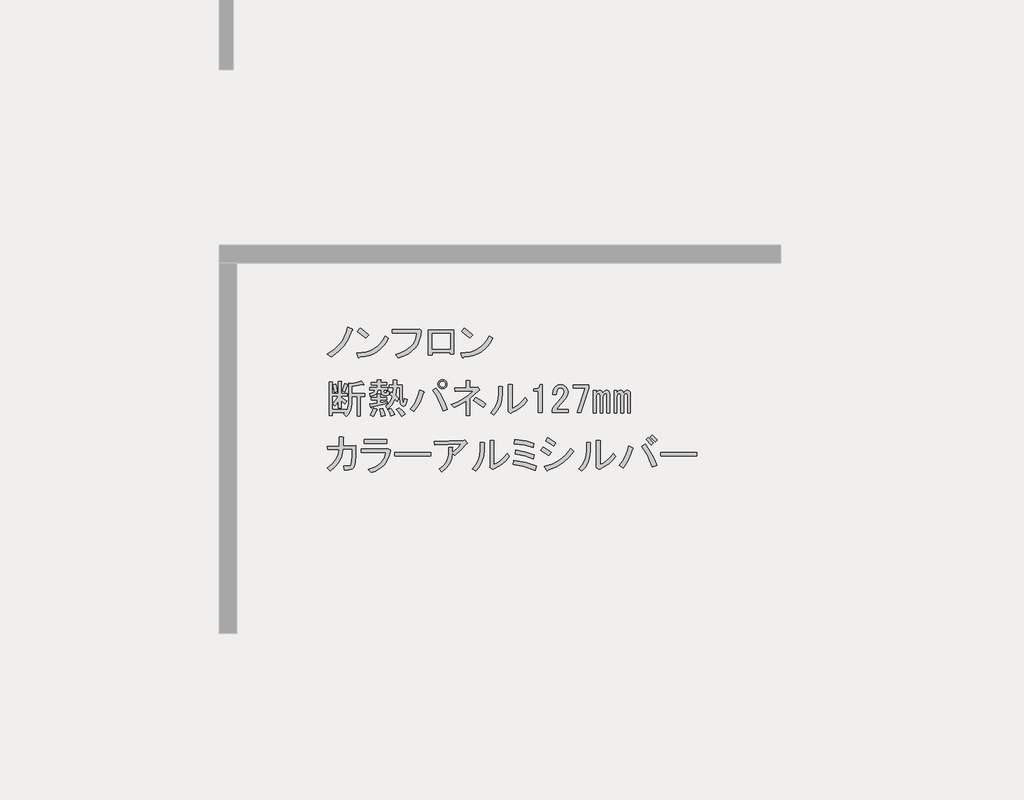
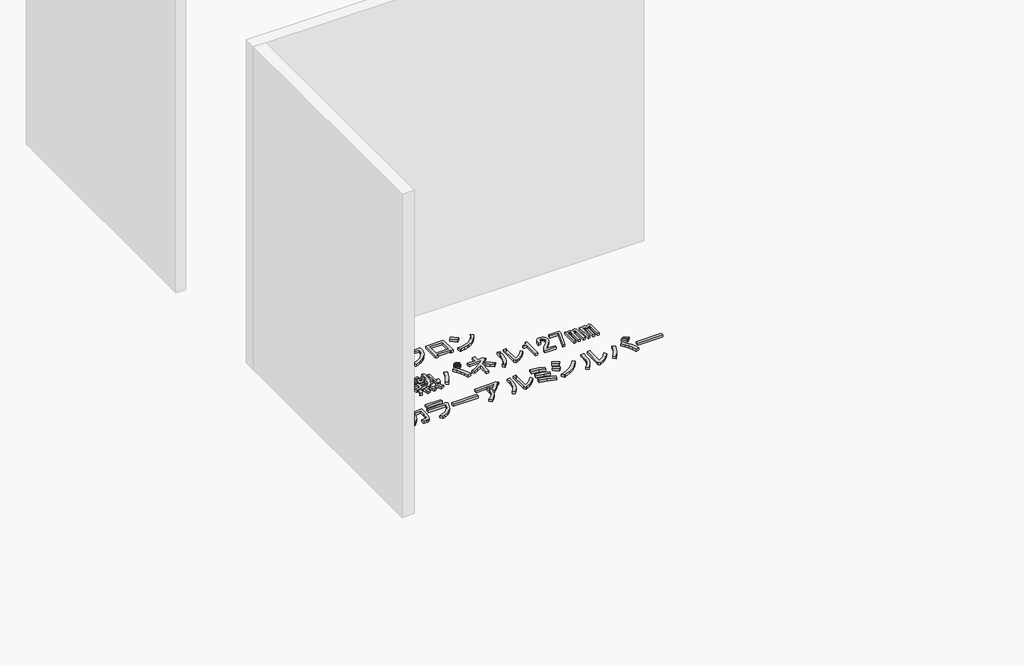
# One storey, part 37 of 117: 1 proxy.
"""IFC4 building model written with IfcOpenShell, lengths in millimetres."""

import ifcopenshell
import ifcopenshell.guid

model = None  # the IFC model being written
_history = None  # IfcOwnerHistory: only IFC2X3 demands one
_inside = {}  # id of a spatial element -> (the spatial element, [elements in it])
_under = {}  # id of a project, library or spatial element -> (it, [spatial elements below it])
_declared = {}  # id of a project -> (the project, [libraries it declares])
_typed = {}  # id of a type object -> (the type object, [elements of that type])
_made_of = {}  # id of a material, layer set ... -> (it, [elements and type objects made of it])


def new_model(schema):
    """Start an empty IFC model of exactly this schema.

    Asked for "IFC4X3", IfcOpenShell would pick the latest addendum, in which some entities
    have other attributes; the version numbers below select the first issue.
    IFC2X3 requires an IfcOwnerHistory on every rooted entity: one is made here for all.
    """
    global model, _history
    if schema == "IFC4X3":
        model = ifcopenshell.file(schema_version=(4, 3, 0, 0))
    else:
        model = ifcopenshell.file(schema=schema)
    _inside.clear()
    _under.clear()
    _declared.clear()
    _typed.clear()
    _made_of.clear()
    _history = None
    if model.schema == "IFC2X3":
        org = make("IfcOrganization", Name="unknown")
        user = make(
            "IfcPersonAndOrganization",
            ThePerson=make("IfcPerson", FamilyName="unknown"),
            TheOrganization=org,
        )
        app = make(
            "IfcApplication",
            ApplicationDeveloper=org,
            Version="unknown",
            ApplicationFullName="unknown",
            ApplicationIdentifier="unknown",
        )
        _history = make(
            "IfcOwnerHistory",
            OwningUser=user,
            OwningApplication=app,
            ChangeAction="ADDED",
            CreationDate=0,
        )
    return model


def make(cls, **values):
    """One entity of the class cls with the attributes given. An attribute that is None is left unset."""
    return model.create_entity(
        cls, **{name: value for name, value in values.items() if value is not None}
    )


def rooted(cls, **values):
    """An entity with a GlobalId (a new one), such as an element, a storey or a relation."""
    return make(cls, GlobalId=ifcopenshell.guid.new(), OwnerHistory=_history, **values)


def si_unit(unit_type, name, prefix=None):
    """IfcSIUnit, for example si_unit("LENGTHUNIT", "METRE", prefix="MILLI")."""
    return make("IfcSIUnit", UnitType=unit_type, Prefix=prefix, Name=name)


def assignment(units):
    """IfcUnitAssignment: the units of a project."""
    return None if units is None else make("IfcUnitAssignment", Units=units)


def point(xyz):
    """IfcCartesianPoint."""
    return None if xyz is None else make("IfcCartesianPoint", Coordinates=xyz)


def direction(xyz):
    """IfcDirection."""
    return None if xyz is None else make("IfcDirection", DirectionRatios=xyz)


def frame(location, z_axis=None, x_axis=None):
    """IfcAxis2Placement3D, a coordinate frame: its origin and axes. An axis left out is left unset."""
    return make(
        "IfcAxis2Placement3D",
        Location=point(location),
        Axis=direction(z_axis),
        RefDirection=direction(x_axis),
    )


def origin():
    """The frame at (0, 0, 0) with its axes left unset."""
    return frame((0.0, 0.0, 0.0))


def place(relative_to, where):
    """IfcLocalPlacement: puts the frame where relative to a parent placement (None: the world)."""
    return make(
        "IfcLocalPlacement", PlacementRelTo=relative_to, RelativePlacement=where
    )


def context(
    kind, dimensions, precision=None, world=None, true_north=None, identifier=None
):
    """IfcGeometricRepresentationContext, for example the 3D "Model" context."""
    return make(
        "IfcGeometricRepresentationContext",
        ContextIdentifier=identifier,
        ContextType=kind,
        CoordinateSpaceDimension=dimensions,
        Precision=precision,
        WorldCoordinateSystem=world,
        TrueNorth=true_north,
    )


def project(units=None, contexts=None):
    """IfcProject with its units and contexts."""
    return rooted(
        "IfcProject",
        Name="project",
        RepresentationContexts=contexts,
        UnitsInContext=assignment(units),
    )


def spatial(cls, under=None, at=None, **own):
    """A site, building, storey or space (cls), placed at a placement, below another one or the project."""
    s = rooted(cls, ObjectPlacement=at, **own)
    if under is not None:
        _under.setdefault(under.id(), (under, []))[1].append(s)
    return s


def polyline(points):
    """IfcPolyline through the points."""
    return make("IfcPolyline", Points=[point(p) for p in points])


def outline(outer, holes=None, kind="AREA"):
    """IfcArbitraryClosedProfileDef: a profile drawn as a closed curve; with holes, ...WithVoids."""
    if holes is None:
        return make("IfcArbitraryClosedProfileDef", ProfileType=kind, OuterCurve=outer)
    return make(
        "IfcArbitraryProfileDefWithVoids",
        ProfileType=kind,
        OuterCurve=outer,
        InnerCurves=holes,
    )


def extrude(swept, where, along, depth):
    """IfcExtrudedAreaSolid: the profile swept, set in the frame where, extruded along a direction by depth."""
    return make(
        "IfcExtrudedAreaSolid",
        SweptArea=swept,
        Position=where,
        ExtrudedDirection=direction(along),
        Depth=depth,
    )


def shape(context_of_items, identifier, shape_type, items):
    """IfcShapeRepresentation: the items that make up one representation, for example the "Body"."""
    return make(
        "IfcShapeRepresentation",
        ContextOfItems=context_of_items,
        RepresentationIdentifier=identifier,
        RepresentationType=shape_type,
        Items=items,
    )


def made_of(thing, what):
    """Note that an element or type object is made of a material, layer set ...; save() writes the relation."""
    if what is not None:
        _made_of.setdefault(what.id(), (what, []))[1].append(thing)
    return thing


def element(
    cls,
    number,
    at=None,
    inside=None,
    cuts=None,
    type_object=None,
    material=None,
    context=None,
    identifier="Body",
    shape_type=None,
    held_by="IfcProductDefinitionShape",
    body=None,
    shapes=None,
    **own,
):
    """One element of the class cls, such as IfcWall. Its Tag is "e" and its number.

    at: its placement. inside: the storey or other place that contains it. cuts: it is an
    opening in that element (IfcRelVoidsElement). A single representation is given by context,
    identifier, shape_type and body (its items); several are given by shapes. held_by: the class
    of the entity that holds the representations. save() writes the other relations.
    """
    e = rooted(cls, Tag="e%d" % number, ObjectPlacement=at, **own)
    if body is not None:
        shapes = [shape(context, identifier, shape_type, body)]
    if shapes is not None:
        e.Representation = make(held_by, Representations=shapes)
    if inside is not None:
        _inside.setdefault(inside.id(), (inside, []))[1].append(e)
    if cuts is not None:
        rooted(
            "IfcRelVoidsElement", RelatingBuildingElement=cuts, RelatedOpeningElement=e
        )
    if type_object is not None:
        _typed.setdefault(type_object.id(), (type_object, []))[1].append(e)
    return made_of(e, material)


def aggregate(whole, parts):
    """IfcRelAggregates: a whole, such as a stair, and the parts it consists of."""
    return rooted("IfcRelAggregates", RelatingObject=whole, RelatedObjects=parts)


def save(model, path):
    """Write the relations noted so far, then the file.

    IfcRelAggregates (storeys below a building ...), IfcRelContainedInSpatialStructure (elements
    in a storey), IfcRelDefinesByType, IfcRelAssociatesMaterial and IfcRelDeclares: one each for
    every whole, place, type object, material and project.
    """
    for whole, parts in _under.values():
        aggregate(whole, parts)
    for where, things in _inside.values():
        rooted(
            "IfcRelContainedInSpatialStructure",
            RelatedElements=things,
            RelatingStructure=where,
        )
    for kind, things in _typed.values():
        rooted("IfcRelDefinesByType", RelatedObjects=things, RelatingType=kind)
    for what, things in _made_of.values():
        rooted("IfcRelAssociatesMaterial", RelatedObjects=things, RelatingMaterial=what)
    for by, libraries in _declared.values():
        rooted("IfcRelDeclares", RelatingContext=by, RelatedDefinitions=libraries)
    model.write(path)


model = new_model("IFC4")

# Units and contexts
model_context = context("Model", 3, world=origin())
ifc_project = project(units=[si_unit("LENGTHUNIT", "METRE", prefix="MILLI")], contexts=[model_context])

# Site, building, storey
site = spatial("IfcSite", under=ifc_project)
building = spatial("IfcBuilding", under=site)
storey = spatial("IfcBuildingStorey", under=building, Name="レベル 1", Elevation=500.0)

# Proxy
placement = place(None, origin())
element("IfcBuildingElementProxy", 1, Name="200㎜\u3000MS Pゴシック", ObjectType="200㎜\u3000MS Pゴシック", at=placement, inside=storey, context=model_context, shape_type="SweptSolid", body=[
    extrude(outline(polyline([(943.6706985, -8607.0496882), (918.0952502, -8666.8215225), (889.646156, -8712.7998566), (847.9782907, -8758.2034615), (798.8389462, -8795.560858), (771.2519457, -8773.7211493), (818.9544673, -8743.2605029), (858.6107805, -8704.7536481), (875.9963381, -8680.8305462), (891.3703435, -8652.7406577), (904.7327969, -8620.4839827), (916.0836981, -8584.0605212), (947.1190736, -8597.8540214), (950.2800841, -8602.4518548), (943.6706985, -8607.0496882)])), frame((0.0, 0.0, 500.0), z_axis=(0.0, 0.0, 1.0), x_axis=(1.0, 0.0, 0.0)), (0.0, 0.0, 1.0), 25.0),
    extrude(outline(polyline([(1043.3977052, -8662.2236891), (984.7753292, -8615.0958967), (1004.3161212, -8590.9572713), (1031.6157571, -8610.7854279), (1065.2374138, -8640.3839804), (1043.3977052, -8662.2236891)])), frame((0.0, 0.0, 500.0), z_axis=(0.0, 0.0, 1.0), x_axis=(1.0, 0.0, 0.0)), (0.0, 0.0, 1.0), 25.0),
    extrude(outline(polyline([(1205.4713328, -8662.2236891), (1188.947869, -8691.965924), (1169.8381239, -8717.9724192), (1148.1420975, -8740.2431748), (1123.8597898, -8758.7781907), (1096.9912008, -8773.577467), (1067.5363306, -8784.6410036), (1035.495179, -8791.9688006), (1000.8677461, -8795.560858), (995.1204544, -8803.6070664), (989.3731626, -8797.8597747), (980.1774958, -8767.9738575), (1016.0082679, -8765.2977748), (1048.7857912, -8758.9937141), (1078.5100658, -8749.0616756), (1105.1810916, -8735.5016591), (1128.7988687, -8718.3136646), (1149.363397, -8697.4976923), (1166.8746766, -8673.053742), (1181.3327074, -8644.9818138), (1205.4713328, -8662.2236891)])), frame((0.0, 0.0, 500.0), z_axis=(0.0, 0.0, 1.0), x_axis=(1.0, 0.0, 0.0)), (0.0, 0.0, 1.0), 25.0),
    extrude(outline(polyline([(1256.2314136, -8777.1695243), (1290.014713, -8767.4889298), (1319.5234641, -8755.1142922), (1344.757667, -8740.0456116), (1365.7173217, -8722.282888), (1382.402428, -8701.8261214), (1394.8129862, -8678.6753118), (1402.9489961, -8652.8304591), (1406.8104577, -8624.2915635), (1234.3917049, -8624.2915635), (1234.3917049, -8599.0034798), (1409.1093744, -8599.0034798), (1425.2017914, -8595.5551047), (1437.8458332, -8607.0496882), (1434.325617, -8643.5449909), (1426.0638851, -8676.5919185), (1413.0606375, -8706.1904711), (1395.3158742, -8732.3406486), (1372.8295952, -8755.042451), (1345.6018005, -8774.2958784), (1313.6324901, -8790.1009308), (1276.921664, -8802.4576081), (1256.2314136, -8777.1695243)])), frame((0.0, 0.0, 500.0), z_axis=(0.0, 0.0, 1.0), x_axis=(1.0, 0.0, 0.0)), (0.0, 0.0, 1.0), 25.0),
    extrude(outline(polyline([(1670.955987, -8776.020066), (1644.5184449, -8776.020066), (1644.5184449, -8763.3760241), (1516.9285679, -8763.3760241), (1516.9285679, -8781.7673577), (1490.4910258, -8781.7673577), (1490.4910258, -8602.4518548), (1670.955987, -8602.4518548), (1670.955987, -8776.020066)]), holes=[polyline([(1516.9285679, -8627.7399386), (1516.9285679, -8738.0879404), (1644.5184449, -8738.0879404), (1644.5184449, -8627.7399386), (1516.9285679, -8627.7399386)])]), frame((0.0, 0.0, 500.0), z_axis=(0.0, 0.0, 1.0), x_axis=(1.0, 0.0, 0.0)), (0.0, 0.0, 1.0), 25.0),
    extrude(outline(polyline([(1947.0099049, -8662.2236891), (1930.4864411, -8691.965924), (1911.376696, -8717.9724192), (1889.6806696, -8740.2431748), (1865.3983619, -8758.7781907), (1838.5297729, -8773.577467), (1809.0749026, -8784.6410036), (1777.0337511, -8791.9688006), (1742.4063182, -8795.560858), (1736.6590264, -8803.6070664), (1730.9117347, -8797.8597747), (1721.7160679, -8767.9738575), (1757.5468399, -8765.2977748), (1790.3243633, -8758.9937141), (1820.0486378, -8749.0616756), (1846.7196637, -8735.5016591), (1870.3374407, -8718.3136646), (1890.9019691, -8697.4976923), (1908.4132486, -8673.053742), (1922.8712795, -8644.9818138), (1947.0099049, -8662.2236891)])), frame((0.0, 0.0, 500.0), z_axis=(0.0, 0.0, 1.0), x_axis=(1.0, 0.0, 0.0)), (0.0, 0.0, 1.0), 25.0),
    extrude(outline(polyline([(1784.9362772, -8662.2236891), (1726.3139013, -8615.0958967), (1745.8546933, -8590.9572713), (1773.1543291, -8610.7854279), (1806.7759859, -8640.3839804), (1784.9362772, -8662.2236891)])), frame((0.0, 0.0, 500.0), z_axis=(0.0, 0.0, 1.0), x_axis=(1.0, 0.0, 0.0)), (0.0, 0.0, 1.0), 25.0),
    extrude(outline(polyline([(877.0021141, -9039.2345221), (894.2439894, -8986.3594379), (914.9342397, -8992.1067296), (916.6584273, -8995.2677401), (912.635323, -8997.8540214), (895.3934477, -9046.1312722), (877.0021141, -9039.2345221)])), frame((0.0, 0.0, 500.0), z_axis=(0.0, 0.0, 1.0), x_axis=(1.0, 0.0, 0.0)), (0.0, 0.0, 1.0), 25.0),
    extrude(outline(polyline([(1031.0295333, -8990.9572713), (1029.3053458, -8995.5551047), (1021.8338665, -8993.256188), (944.8201569, -9005.9002299), (944.8201569, -9055.326939), (1036.7768251, -9055.326939), (1036.7768251, -9077.1666477), (1005.7414495, -9077.1666477), (1005.7414495, -9217.4005666), (982.7522825, -9217.4005666), (982.7522825, -9077.1666477), (944.8201569, -9077.1666477), (944.8201569, -9126.5933568), (942.2338756, -9154.3958807), (934.4750317, -9179.1810764), (921.5436253, -9200.948944), (903.4396562, -9219.6994833), (886.1977809, -9200.1586914), (896.5429061, -9190.9630245), (806.8851546, -9190.9630245), (806.8851546, -9212.8027332), (783.8959876, -9212.8027332), (783.8959876, -8973.715396), (805.7356963, -8973.715396), (810.6208943, -8976.0143127), (806.8851546, -8980.6121461), (806.8851546, -9056.4763974), (849.4151137, -9056.4763974), (849.4151137, -8969.1175626), (867.8064473, -8969.1175626), (872.6916453, -8971.4164793), (868.9559057, -8976.0143127), (868.9559057, -9056.4763974), (912.635323, -9056.4763974), (912.635323, -9074.867731), (868.9559057, -9074.867731), (868.9559057, -9084.0633978), (909.186948, -9110.5009399), (895.3934477, -9132.3406486), (868.9559057, -9105.9031065), (868.9559057, -9158.7781907), (849.4151137, -9158.7781907), (849.4151137, -9110.5009399), (836.1963426, -9130.3290965), (821.8281132, -9146.1341488), (809.1840713, -9127.7428152), (831.02378, -9103.6041898), (848.2656553, -9074.867731), (806.8851546, -9074.867731), (806.8851546, -9169.1233159), (904.5891146, -9169.1233159), (904.5891146, -9182.9168161), (917.520521, -9158.7781907), (921.8309898, -9125.4438985), (921.8309898, -8980.6121461), (943.6706985, -8986.3594379), (979.8786366, -8978.8879586), (1010.339283, -8965.6691875), (1031.0295333, -8990.9572713)])), frame((0.0, 0.0, 500.0), z_axis=(0.0, 0.0, 1.0), x_axis=(1.0, 0.0, 0.0)), (0.0, 0.0, 1.0), 25.0),
    extrude(outline(polyline([(822.9775716, -9047.2807305), (810.3335297, -8996.7045631), (829.8743217, -8989.8078129), (837.6331656, -9013.9464383), (842.5183636, -9040.3839804), (822.9775716, -9047.2807305)])), frame((0.0, 0.0, 500.0), z_axis=(0.0, 0.0, 1.0), x_axis=(1.0, 0.0, 0.0)), (0.0, 0.0, 1.0), 25.0),
    extrude(outline(polyline([(1121.8367431, -9167.9738575), (1125.2851182, -9172.8590555), (1119.5378264, -9176.020066), (1109.7674304, -9201.5955143), (1098.8475761, -9220.8489417), (1075.858409, -9209.3543582), (1088.5024509, -9185.790462), (1098.8475761, -9158.7781907), (1121.8367431, -9167.9738575)])), frame((0.0, 0.0, 500.0), z_axis=(0.0, 0.0, 1.0), x_axis=(1.0, 0.0, 0.0)), (0.0, 0.0, 1.0), 25.0),
    extrude(outline(polyline([(1166.6656188, -9163.3760241), (1176.7233794, -9190.67566), (1181.6085774, -9212.8027332), (1152.8721186, -9218.550025), (1150.2858373, -9196.9976809), (1142.5269934, -9166.8243992), (1166.6656188, -9163.3760241)])), frame((0.0, 0.0, 500.0), z_axis=(0.0, 0.0, 1.0), x_axis=(1.0, 0.0, 0.0)), (0.0, 0.0, 1.0), 25.0),
    extrude(outline(polyline([(1281.611454, -9157.6287323), (1306.3248086, -9178.8937119), (1325.2908714, -9203.6070664), (1298.8533293, -9218.550025), (1279.5999019, -9188.9514724), (1260.9212037, -9169.1233159), (1281.611454, -9157.6287323)])), frame((0.0, 0.0, 500.0), z_axis=(0.0, 0.0, 1.0), x_axis=(1.0, 0.0, 0.0)), (0.0, 0.0, 1.0), 25.0),
    extrude(outline(polyline([(1222.9890781, -9216.2511083), (1214.655505, -9191.5377537), (1201.1493694, -9170.2727742), (1221.8396197, -9162.2265657), (1238.7941304, -9183.7789098), (1250.5760785, -9207.0554415), (1222.9890781, -9216.2511083)])), frame((0.0, 0.0, 500.0), z_axis=(0.0, 0.0, 1.0), x_axis=(1.0, 0.0, 0.0)), (0.0, 0.0, 1.0), 25.0),
    extrude(outline(polyline([(1083.9046175, -9153.0308989), (1081.8930654, -9157.9160969), (1078.1573257, -9156.479274), (1072.410034, -9132.3406486), (1127.5840349, -9124.2944401), (1127.5840349, -9101.3052731), (1083.9046175, -9101.3052731), (1083.9046175, -9082.9139395), (1127.5840349, -9082.9139395), (1127.5840349, -9059.9247724), (1145.9753685, -9059.9247724), (1150.8605665, -9062.2236891), (1147.1248268, -9066.8215225), (1147.1248268, -9082.9139395), (1191.9537026, -9082.9139395), (1191.9537026, -9101.3052731), (1147.1248268, -9101.3052731), (1147.1248268, -9120.8460651), (1197.7009943, -9111.6503983), (1197.7009943, -9127.7428152), (1083.9046175, -9153.0308989)])), frame((0.0, 0.0, 500.0), z_axis=(0.0, 0.0, 1.0), x_axis=(1.0, 0.0, 0.0)), (0.0, 0.0, 1.0), 25.0),
    extrude(outline(polyline([(1154.021577, -9031.1883136), (1128.7334932, -9031.1883136), (1124.1356598, -9048.6457123), (1113.7905346, -9061.9363245), (1097.6981177, -9071.0601502), (1075.858409, -9076.0171893), (1071.2605756, -9056.4763974), (1096.5486594, -9047.8554597), (1104.0201386, -9040.5276627), (1108.0432429, -9031.1883136), (1072.410034, -9031.1883136), (1072.410034, -9012.79698), (1126.4345765, -9012.79698), (1126.4345765, -8995.5551047), (1082.7551591, -8995.5551047), (1082.7551591, -8977.1637711), (1126.4345765, -8977.1637711), (1126.4345765, -8958.7724374), (1148.2742852, -8958.7724374), (1153.1594832, -8961.0713541), (1149.4237436, -8965.6691875), (1149.4237436, -8977.1637711), (1191.9537026, -8977.1637711), (1191.9537026, -8995.5551047), (1149.4237436, -8995.5551047), (1149.4237436, -9012.79698), (1202.2988277, -9012.79698), (1202.2988277, -9031.1883136), (1173.5623689, -9031.1883136), (1173.5623689, -9043.8323555), (1174.9991919, -9049.0049181), (1179.3096607, -9050.7291056), (1189.6547859, -9050.7291056), (1193.3905255, -9047.5680951), (1193.1031609, -9038.0850637), (1212.6439529, -9040.3839804), (1209.770307, -9061.9363245), (1204.4540622, -9067.3244106), (1196.551536, -9069.1204392), (1172.4129106, -9069.1204392), (1158.6194104, -9064.2352412), (1154.021577, -9049.5796472), (1154.021577, -9031.1883136)])), frame((0.0, 0.0, 500.0), z_axis=(0.0, 0.0, 1.0), x_axis=(1.0, 0.0, 0.0)), (0.0, 0.0, 1.0), 25.0),
    extrude(outline(polyline([(1285.0598291, -9013.9464383), (1263.2201204, -9013.9464383), (1258.622287, -9071.4193559), (1278.163079, -9089.8106896), (1267.8179538, -9111.6503983), (1251.7255369, -9095.5579813), (1232.4721095, -9133.2027424), (1202.2988277, -9165.6749408), (1185.0569525, -9144.9846905), (1200.1435933, -9133.0590601), (1213.2186821, -9117.9724192), (1224.2822187, -9099.7247679), (1233.3342033, -9078.316106), (1216.092328, -9063.3731475), (1224.1385364, -9046.1312722), (1237.9320367, -9056.4763974), (1240.2309534, -9013.9464383), (1212.6439529, -9013.9464383), (1212.6439529, -8995.5551047), (1240.2309534, -8995.5551047), (1240.2309534, -8961.0713541), (1262.0706621, -8961.0713541), (1266.95586, -8963.3702708), (1263.2201204, -8967.9681043), (1263.2201204, -8995.5551047), (1304.6006211, -8995.5551047), (1304.6006211, -9092.1096063), (1308.0489961, -9116.2482317), (1311.2818477, -9118.2597838), (1314.0836525, -9115.0987733), (1318.3941213, -9093.2590646), (1337.9349133, -9100.1558147), (1333.408921, -9126.9525626), (1325.578236, -9142.9731384), (1314.4428582, -9148.2175421), (1300.0027877, -9142.6857738), (1293.4652433, -9135.3579768), (1288.7955687, -9123.719711), (1285.0598291, -9087.5117729), (1285.0598291, -9013.9464383)])), frame((0.0, 0.0, 500.0), z_axis=(0.0, 0.0, 1.0), x_axis=(1.0, 0.0, 0.0)), (0.0, 0.0, 1.0), 25.0),
    extrude(outline(polyline([(1543.6879583, -9016.245355), (1570.3410238, -9052.9561812), (1592.8273029, -9090.6727833), (1611.1467953, -9129.3951616), (1625.2995013, -9169.1233159), (1594.2641258, -9179.468441), (1578.8182792, -9136.3637528), (1561.2171982, -9097.856898), (1541.4608827, -9063.9478766), (1519.5493329, -9034.6366887), (1543.6879583, -9016.245355)])), frame((0.0, 0.0, 500.0), z_axis=(0.0, 0.0, 1.0), x_axis=(1.0, 0.0, 0.0)), (0.0, 0.0, 1.0), 25.0),
    extrude(outline(polyline([(1456.3291235, -9042.6828971), (1460.3522278, -9048.1428243), (1454.0302068, -9053.0280223), (1442.1045764, -9088.4457078), (1427.0179356, -9122.282888), (1408.7702842, -9154.539563), (1387.3616224, -9185.2157328), (1360.9240803, -9167.9738575), (1384.1287708, -9136.5074351), (1403.1666748, -9103.0294606), (1418.0377922, -9067.539934), (1428.7421231, -9030.0388553), (1456.3291235, -9042.6828971)])), frame((0.0, 0.0, 500.0), z_axis=(0.0, 0.0, 1.0), x_axis=(1.0, 0.0, 0.0)), (0.0, 0.0, 1.0), 25.0),
    extrude(outline(polyline([(1589.6662924, -9021.9926468), (1577.0222505, -9019.6937301), (1566.6771253, -9012.79698), (1559.7803752, -9002.4518548), (1557.4814585, -8989.8078129), (1559.7803752, -8977.1637711), (1566.6771253, -8966.8186459), (1577.0222505, -8959.9218958), (1589.6662924, -8957.6229791), (1602.3103343, -8959.9218958), (1612.6554594, -8966.8186459), (1619.5522095, -8977.1637711), (1621.8511262, -8989.8078129), (1619.5522095, -9002.4518548), (1612.6554594, -9012.79698), (1602.3103343, -9019.6937301), (1589.6662924, -9021.9926468)]), holes=[polyline([(1589.6662924, -9010.4980633), (1597.9998654, -9009.0612403), (1604.609251, -9004.7507715), (1608.9197198, -8998.141386), (1610.3565427, -8989.8078129), (1608.9197198, -8981.4742399), (1604.609251, -8974.8648544), (1597.9998654, -8970.5543855), (1589.6662924, -8969.1175626), (1581.3327193, -8970.5543855), (1574.7233338, -8974.8648544), (1570.412865, -8981.4742399), (1568.976042, -8989.8078129), (1570.412865, -8998.141386), (1574.7233338, -9004.7507715), (1581.3327193, -9009.0612403), (1589.6662924, -9010.4980633)])]), frame((0.0, 0.0, 500.0), z_axis=(0.0, 0.0, 1.0), x_axis=(1.0, 0.0, 0.0)), (0.0, 0.0, 1.0), 25.0),
    extrude(outline(polyline([(1879.3297971, -9155.3298156), (1842.2597652, -9126.0186277), (1809.2128376, -9104.7536481), (1826.4547129, -9082.9139395), (1865.2489323, -9106.1904711), (1898.8705891, -9132.3406486), (1879.3297971, -9155.3298156)])), frame((0.0, 0.0, 500.0), z_axis=(0.0, 0.0, 1.0), x_axis=(1.0, 0.0, 0.0)), (0.0, 0.0, 1.0), 25.0),
    extrude(outline(polyline([(1833.351463, -9011.6475216), (1840.2482131, -9009.3486049), (1852.892255, -9026.5904802), (1854.0417134, -9032.6251366), (1848.2944216, -9034.6366887), (1785.0742122, -9090.9601479), (1785.0742122, -9211.6532749), (1758.6366701, -9211.6532749), (1758.6366701, -9109.3514816), (1718.4056278, -9133.4901069), (1673.5767521, -9155.3298156), (1654.0359601, -9134.6395653), (1699.5832473, -9115.1706145), (1740.8200657, -9092.3969709), (1777.7464152, -9066.3186345), (1810.362296, -9036.9356054), (1680.4735022, -9042.6828971), (1677.0251271, -9017.3948134), (1758.6366701, -9015.0958967), (1758.6366701, -8963.3702708), (1781.6258372, -8963.3702708), (1787.6604935, -8966.8186459), (1785.0742122, -8972.5659377), (1785.0742122, -9013.9464383), (1833.351463, -9011.6475216)])), frame((0.0, 0.0, 500.0), z_axis=(0.0, 0.0, 1.0), x_axis=(1.0, 0.0, 0.0)), (0.0, 0.0, 1.0), 25.0),
    extrude(outline(polyline([(1932.296838, -9193.2619413), (1957.4412394, -9164.0225944), (1975.4015262, -9131.4785548), (1986.1776982, -9095.6298225), (1989.7697556, -9056.4763974), (1989.7697556, -9004.7507715), (2013.908381, -9004.7507715), (2019.6556727, -9008.1991466), (2016.2072977, -9013.9464383), (2016.2072977, -9055.326939), (2012.3997169, -9101.0897496), (2000.9769745, -9141.82368), (1981.9390705, -9177.5287301), (1955.286005, -9208.2048998), (1932.296838, -9193.2619413)])), frame((0.0, 0.0, 500.0), z_axis=(0.0, 0.0, 1.0), x_axis=(1.0, 0.0, 0.0)), (0.0, 0.0, 1.0), 25.0),
    extrude(outline(polyline([(2086.3242571, -9162.2265657), (2111.1094529, -9150.0135708), (2134.8888725, -9132.9153778), (2157.6625161, -9110.9319868), (2179.4303837, -9084.0633978), (2195.5228006, -9105.9031065), (2172.246269, -9133.7056304), (2146.0960914, -9157.3413678), (2117.0722681, -9176.8103186), (2085.1747988, -9192.1124829), (2075.979132, -9196.7103163), (2057.5877983, -9182.9168161), (2059.886715, -9177.1695243), (2059.886715, -8992.1067296), (2084.0253404, -8992.1067296), (2089.7726322, -8995.5551047), (2086.3242571, -9001.3023965), (2086.3242571, -9162.2265657)])), frame((0.0, 0.0, 500.0), z_axis=(0.0, 0.0, 1.0), x_axis=(1.0, 0.0, 0.0)), (0.0, 0.0, 1.0), 25.0),
    extrude(outline(polyline([(2274.8354269, -9015.0958967), (2282.8816353, -9004.1760423), (2286.3300104, -8992.1067296), (2300.1235106, -8992.1067296), (2300.1235106, -9190.9630245), (2273.6859685, -9190.9630245), (2273.6859685, -9038.0850637), (2239.202218, -9038.0850637), (2239.202218, -9024.2915635), (2249.5473431, -9024.2915635), (2263.9155725, -9021.9926468), (2274.8354269, -9015.0958967)])), frame((0.0, 0.0, 500.0), z_axis=(0.0, 0.0, 1.0), x_axis=(1.0, 0.0, 0.0)), (0.0, 0.0, 1.0), 25.0),
    extrude(outline(polyline([(2374.8383035, -9062.2236891), (2379.4361369, -9030.900949), (2393.2296371, -9008.1991466), (2409.6094186, -8996.9919276), (2428.862846, -8993.256188), (2451.5646485, -8996.9919276), (2469.0938884, -9008.1991466), (2480.3011073, -9024.8662927), (2484.0368469, -9044.9818138), (2479.7263781, -9070.8446268), (2466.7949717, -9093.2590646), (2433.4606795, -9131.1911902), (2415.0693458, -9151.8814406), (2401.2758456, -9170.2727742), (2487.485222, -9170.2727742), (2487.485222, -9192.1124829), (2370.2404701, -9192.1124829), (2370.2404701, -9172.5716909), (2376.2751264, -9158.7781907), (2389.7812621, -9140.3868571), (2436.9090545, -9088.6612312), (2451.5646485, -9067.3962517), (2456.4498465, -9044.9818138), (2454.1509298, -9032.337772), (2447.2541797, -9021.9926468), (2439.4953358, -9016.8200842), (2430.0123044, -9015.0958967), (2421.3913668, -9016.8200842), (2413.9198875, -9021.9926468), (2404.4368561, -9038.3724283), (2401.2758456, -9062.2236891), (2374.8383035, -9062.2236891)])), frame((0.0, 0.0, 500.0), z_axis=(0.0, 0.0, 1.0), x_axis=(1.0, 0.0, 0.0)), (0.0, 0.0, 1.0), 25.0),
    extrude(outline(polyline([(2521.9689726, -8995.5551047), (2631.167516, -8995.5551047), (2631.167516, -9020.8431884), (2575.9935151, -9192.1124829), (2550.7054314, -9192.1124829), (2605.8794323, -9017.3948134), (2521.9689726, -9017.3948134), (2521.9689726, -8995.5551047)])), frame((0.0, 0.0, 500.0), z_axis=(0.0, 0.0, 1.0), x_axis=(1.0, 0.0, 0.0)), (0.0, 0.0, 1.0), 25.0),
    extrude(outline(polyline([(2684.0426002, -9193.2619413), (2664.5018082, -9193.2619413), (2664.5018082, -9035.786147), (2684.0426002, -9035.786147), (2684.0426002, -9053.0280223), (2696.1119129, -9037.5103346), (2709.3306839, -9032.337772), (2718.5263508, -9033.7745949), (2725.4231009, -9038.0850637), (2732.319851, -9051.878564), (2745.2512574, -9037.22297), (2758.7573931, -9032.337772), (2767.0909661, -9033.7745949), (2773.7003517, -9038.0850637), (2778.8729142, -9046.7060014), (2780.5971018, -9058.7753141), (2780.5971018, -9193.2619413), (2761.0563098, -9193.2619413), (2761.0563098, -9069.1204392), (2758.4700285, -9059.6374078), (2750.7111846, -9056.4763974), (2740.3660594, -9061.0742308), (2734.3314031, -9069.6951684), (2732.319851, -9079.4655644), (2732.319851, -9193.2619413), (2712.779059, -9193.2619413), (2712.779059, -9069.1204392), (2710.1927777, -9059.6374078), (2702.4339338, -9056.4763974), (2692.0888087, -9061.0742308), (2686.0541523, -9069.6951684), (2684.0426002, -9079.4655644), (2684.0426002, -9193.2619413)])), frame((0.0, 0.0, 500.0), z_axis=(0.0, 0.0, 1.0), x_axis=(1.0, 0.0, 0.0)), (0.0, 0.0, 1.0), 25.0),
    extrude(outline(polyline([(2905.8880621, -9032.337772), (2914.2216352, -9033.7745949), (2920.8310207, -9038.0850637), (2926.0035833, -9046.7060014), (2927.7277708, -9058.7753141), (2927.7277708, -9193.2619413), (2908.1869788, -9193.2619413), (2908.1869788, -9069.1204392), (2905.6006976, -9059.6374078), (2897.8418537, -9056.4763974), (2887.4967285, -9061.0742308), (2881.4620722, -9069.6951684), (2879.45052, -9079.4655644), (2879.45052, -9193.2619413), (2859.9097281, -9193.2619413), (2859.9097281, -9069.1204392), (2857.3234468, -9059.6374078), (2849.5646029, -9056.4763974), (2839.2194777, -9061.0742308), (2833.1848214, -9069.6951684), (2831.1732693, -9079.4655644), (2831.1732693, -9193.2619413), (2811.6324773, -9193.2619413), (2811.6324773, -9035.786147), (2831.1732693, -9035.786147), (2831.1732693, -9053.0280223), (2843.242582, -9037.5103346), (2856.461353, -9032.337772), (2865.6570198, -9033.7745949), (2872.5537699, -9038.0850637), (2879.45052, -9051.878564), (2892.3819265, -9037.22297), (2905.8880621, -9032.337772)])), frame((0.0, 0.0, 500.0), z_axis=(0.0, 0.0, 1.0), x_axis=(1.0, 0.0, 0.0)), (0.0, 0.0, 1.0), 25.0),
    extrude(outline(polyline([(947.1190736, -9450.7291056), (881.5999475, -9453.0280223), (873.3382156, -9499.293721), (855.44977, -9540.3868571), (827.9346107, -9576.3074306), (790.7927377, -9607.0554415), (771.2519457, -9587.5146495), (806.2385843, -9559.2810787), (831.8858738, -9527.4554506), (848.1938142, -9492.0377651), (855.1624054, -9453.0280223), (773.5508624, -9455.326939), (771.2519457, -9432.337772), (856.3118638, -9430.0388553), (856.3118638, -9365.6691875), (880.4504892, -9365.6691875), (887.3472393, -9369.1175626), (882.7494059, -9374.8648544), (882.7494059, -9430.0388553), (973.5566157, -9426.5904802), (973.5566157, -9497.856898), (970.9703344, -9545.8467842), (963.2114905, -9577.1695243), (956.602105, -9587.2272849), (947.1190736, -9594.4113996), (934.7623963, -9598.7218684), (919.5320731, -9600.1586914), (891.9450727, -9600.1586914), (888.4966976, -9571.4222326), (918.3826148, -9573.7211493), (932.4634796, -9570.8475034), (940.2223235, -9562.2265657), (945.3948861, -9536.938482), (947.1190736, -9497.856898), (947.1190736, -9450.7291056)])), frame((0.0, 0.0, 500.0), z_axis=(0.0, 0.0, 1.0), x_axis=(1.0, 0.0, 0.0)), (0.0, 0.0, 1.0), 25.0),
    extrude(outline(polyline([(1061.9729521, -9596.7103163), (1111.6151847, -9578.3908238), (1131.8564279, -9566.2676303), (1149.0444223, -9552.1688052), (1163.179168, -9536.0943485), (1174.2606649, -9518.0442603), (1182.2889131, -9498.0185406), (1187.2639125, -9476.0171893), (1012.546243, -9476.0171893), (1012.546243, -9450.7291056), (1188.4133709, -9450.7291056), (1198.758496, -9447.2807305), (1219.4487464, -9459.9247724), (1222.3223922, -9465.3846996), (1217.1498297, -9470.2698976), (1211.0253719, -9497.7491363), (1201.8476653, -9522.7139349), (1189.6167101, -9545.1642933), (1174.332506, -9565.1002116), (1155.9950533, -9582.5216898), (1134.6043517, -9597.4287278), (1110.1604015, -9609.8213256), (1082.6632025, -9619.6994833), (1061.9729521, -9596.7103163)])), frame((0.0, 0.0, 500.0), z_axis=(0.0, 0.0, 1.0), x_axis=(1.0, 0.0, 0.0)), (0.0, 0.0, 1.0), 25.0),
    extrude(outline(polyline([(1191.8617459, -9410.4980633), (1033.2364933, -9410.4980633), (1033.2364933, -9385.2099795), (1191.8617459, -9385.2099795), (1191.8617459, -9410.4980633)])), frame((0.0, 0.0, 500.0), z_axis=(0.0, 0.0, 1.0), x_axis=(1.0, 0.0, 0.0)), (0.0, 0.0, 1.0), 25.0),
    extrude(outline(polyline([(1250.8979269, -9501.3052731), (1250.8979269, -9476.0171893), (1507.2271394, -9476.0171893), (1507.2271394, -9501.3052731), (1250.8979269, -9501.3052731)])), frame((0.0, 0.0, 500.0), z_axis=(0.0, 0.0, 1.0), x_axis=(1.0, 0.0, 0.0)), (0.0, 0.0, 1.0), 25.0),
    extrude(outline(polyline([(1659.8292302, -9478.316106), (1656.0216494, -9519.5529244), (1642.2999903, -9555.9045448), (1618.664253, -9587.3709672), (1585.1144373, -9613.9521916), (1565.5736453, -9592.1124829), (1595.244039, -9571.8532794), (1616.4371774, -9547.8583363), (1629.1530604, -9520.1276536), (1633.3916881, -9488.6612312), (1633.3916881, -9439.2345221), (1657.5303135, -9439.2345221), (1663.2776052, -9441.8208034), (1659.8292302, -9447.2807305), (1659.8292302, -9477.1666477), (1696.3245329, -9446.4186368), (1723.0494396, -9416.245355), (1535.6877282, -9423.1421052), (1533.3888115, -9396.7045631), (1742.5902315, -9390.9572713), (1750.63644, -9388.6583546), (1767.8783153, -9409.3486049), (1768.1656799, -9412.5096154), (1762.1310235, -9412.79698), (1724.1988979, -9456.1890328), (1679.3700222, -9496.7074397), (1659.8292302, -9478.316106)])), frame((0.0, 0.0, 500.0), z_axis=(0.0, 0.0, 1.0), x_axis=(1.0, 0.0, 0.0)), (0.0, 0.0, 1.0), 25.0),
    extrude(outline(polyline([(1802.8218492, -9593.2619413), (1827.9662506, -9564.0225944), (1845.9265374, -9531.4785548), (1856.7027094, -9495.6298225), (1860.2947668, -9456.4763974), (1860.2947668, -9404.7507715), (1884.4333922, -9404.7507715), (1890.1806839, -9408.1991466), (1886.7323089, -9413.9464383), (1886.7323089, -9455.326939), (1882.9247281, -9501.0897496), (1871.5019857, -9541.82368), (1852.4640818, -9577.5287301), (1825.8110162, -9608.2048998), (1802.8218492, -9593.2619413)])), frame((0.0, 0.0, 500.0), z_axis=(0.0, 0.0, 1.0), x_axis=(1.0, 0.0, 0.0)), (0.0, 0.0, 1.0), 25.0),
    extrude(outline(polyline([(1956.8492684, -9562.2265657), (1981.6344641, -9550.0135708), (2005.4138837, -9532.9153778), (2028.1875273, -9510.9319868), (2049.9553949, -9484.0633978), (2066.0478118, -9505.9031065), (2042.7712802, -9533.7056304), (2016.6211027, -9557.3413678), (1987.5972793, -9576.8103186), (1955.69981, -9592.1124829), (1946.5041432, -9596.7103163), (1928.1128096, -9582.9168161), (1930.4117263, -9577.1695243), (1930.4117263, -9392.1067296), (1954.5503517, -9392.1067296), (1960.2976434, -9395.5551047), (1956.8492684, -9401.3023965), (1956.8492684, -9562.2265657)])), frame((0.0, 0.0, 500.0), z_axis=(0.0, 0.0, 1.0), x_axis=(1.0, 0.0, 0.0)), (0.0, 0.0, 1.0), 25.0),
    extrude(outline(polyline([(2237.3171063, -9520.8460651), (2180.7062824, -9502.1673669), (2107.4283125, -9487.5117729), (2110.8766875, -9459.9247724), (2180.1315532, -9471.9940851), (2245.3633147, -9492.1096063), (2237.3171063, -9520.8460651)])), frame((0.0, 0.0, 500.0), z_axis=(0.0, 0.0, 1.0), x_axis=(1.0, 0.0, 0.0)), (0.0, 0.0, 1.0), 25.0),
    extrude(outline(polyline([(2251.1106065, -9604.7565248), (2167.4875114, -9577.4568889), (2093.6348123, -9562.2265657), (2099.382104, -9532.3406486), (2184.1546575, -9549.0077947), (2259.1568149, -9573.7211493), (2251.1106065, -9604.7565248)])), frame((0.0, 0.0, 500.0), z_axis=(0.0, 0.0, 1.0), x_axis=(1.0, 0.0, 0.0)), (0.0, 0.0, 1.0), 25.0),
    extrude(outline(polyline([(2106.2788541, -9384.0605212), (2187.3156679, -9395.8424693), (2241.9149397, -9410.4980633), (2235.0181896, -9440.3839804), (2173.2348031, -9423.4294697), (2102.8304791, -9413.9464383), (2106.2788541, -9384.0605212)])), frame((0.0, 0.0, 500.0), z_axis=(0.0, 0.0, 1.0), x_axis=(1.0, 0.0, 0.0)), (0.0, 0.0, 1.0), 25.0),
    extrude(outline(polyline([(2314.9285342, -9577.1695243), (2373.6945924, -9558.7063495), (2424.7018068, -9530.9038257), (2467.9501773, -9493.7619527), (2503.4397039, -9447.2807305), (2524.1299543, -9467.9709809), (2490.7956621, -9511.6503983), (2449.4151614, -9548.4330655), (2399.9884522, -9578.3189827), (2342.5155346, -9601.3081497), (2337.9177012, -9608.4922644), (2331.0209511, -9602.4576081), (2314.9285342, -9577.1695243)])), frame((0.0, 0.0, 500.0), z_axis=(0.0, 0.0, 1.0), x_axis=(1.0, 0.0, 0.0)), (0.0, 0.0, 1.0), 25.0),
    extrude(outline(polyline([(2306.8823257, -9438.0850637), (2365.5047017, -9474.867731), (2347.113368, -9499.0063564), (2289.6404504, -9462.2236891), (2306.8823257, -9438.0850637)])), frame((0.0, 0.0, 500.0), z_axis=(0.0, 0.0, 1.0), x_axis=(1.0, 0.0, 0.0)), (0.0, 0.0, 1.0), 25.0),
    extrude(outline(polyline([(2339.0671596, -9370.267021), (2397.6895355, -9407.0496882), (2381.5971186, -9431.1883136), (2324.124201, -9394.4056463), (2339.0671596, -9370.267021)])), frame((0.0, 0.0, 500.0), z_axis=(0.0, 0.0, 1.0), x_axis=(1.0, 0.0, 0.0)), (0.0, 0.0, 1.0), 25.0),
    extrude(outline(polyline([(2559.0734882, -9593.2619413), (2584.2178896, -9564.0225944), (2602.1781764, -9531.4785548), (2612.9543484, -9495.6298225), (2616.5464058, -9456.4763974), (2616.5464058, -9404.7507715), (2640.6850312, -9404.7507715), (2646.4323229, -9408.1991466), (2642.9839479, -9413.9464383), (2642.9839479, -9455.326939), (2639.1763671, -9501.0897496), (2627.7536247, -9541.82368), (2608.7157207, -9577.5287301), (2582.0626552, -9608.2048998), (2559.0734882, -9593.2619413)])), frame((0.0, 0.0, 500.0), z_axis=(0.0, 0.0, 1.0), x_axis=(1.0, 0.0, 0.0)), (0.0, 0.0, 1.0), 25.0),
    extrude(outline(polyline([(2713.1009073, -9562.2265657), (2737.8861031, -9550.0135708), (2761.6655227, -9532.9153778), (2784.4391663, -9510.9319868), (2806.2070339, -9484.0633978), (2822.2994508, -9505.9031065), (2799.0229192, -9533.7056304), (2772.8727416, -9557.3413678), (2743.8489183, -9576.8103186), (2711.951449, -9592.1124829), (2702.7557822, -9596.7103163), (2684.3644485, -9582.9168161), (2686.6633652, -9577.1695243), (2686.6633652, -9392.1067296), (2710.8019906, -9392.1067296), (2716.5492824, -9395.5551047), (2713.1009073, -9401.3023965), (2713.1009073, -9562.2265657)])), frame((0.0, 0.0, 500.0), z_axis=(0.0, 0.0, 1.0), x_axis=(1.0, 0.0, 0.0)), (0.0, 0.0, 1.0), 25.0),
    extrude(outline(polyline([(2945.2914944, -9442.6828971), (2949.3145987, -9448.1428243), (2942.9925777, -9453.0280223), (2931.0669473, -9488.4457078), (2915.9803065, -9522.282888), (2897.7326551, -9554.539563), (2876.3239933, -9585.2157328), (2849.8864512, -9567.9738575), (2873.0911417, -9536.5074351), (2892.1290457, -9503.0294606), (2907.0001631, -9467.539934), (2917.704494, -9430.0388553), (2945.2914944, -9442.6828971)])), frame((0.0, 0.0, 500.0), z_axis=(0.0, 0.0, 1.0), x_axis=(1.0, 0.0, 0.0)), (0.0, 0.0, 1.0), 25.0),
    extrude(outline(polyline([(3032.6503292, -9416.245355), (3059.3033947, -9452.9561812), (3081.7896738, -9490.6727833), (3100.1091662, -9529.3951616), (3114.2618722, -9569.1233159), (3083.2264967, -9579.468441), (3067.7806501, -9536.3637528), (3050.1795691, -9497.856898), (3030.4232536, -9463.9478766), (3008.5117038, -9434.6366887), (3032.6503292, -9416.245355)])), frame((0.0, 0.0, 500.0), z_axis=(0.0, 0.0, 1.0), x_axis=(1.0, 0.0, 0.0)), (0.0, 0.0, 1.0), 25.0),
    extrude(outline(polyline([(3083.2264967, -9353.0251457), (3120.009164, -9388.6583546), (3105.0662054, -9402.4518548), (3068.2835381, -9365.6691875), (3083.2264967, -9353.0251457)])), frame((0.0, 0.0, 500.0), z_axis=(0.0, 0.0, 1.0), x_axis=(1.0, 0.0, 0.0)), (0.0, 0.0, 1.0), 25.0),
    extrude(outline(polyline([(3055.6394962, -9370.267021), (3092.4221635, -9409.3486049), (3075.1802882, -9421.9926468), (3039.5470793, -9382.9110628), (3055.6394962, -9370.267021)])), frame((0.0, 0.0, 500.0), z_axis=(0.0, 0.0, 1.0), x_axis=(1.0, 0.0, 0.0)), (0.0, 0.0, 1.0), 25.0),
    extrude(outline(polyline([(3142.998331, -9501.3052731), (3142.998331, -9476.0171893), (3399.3275435, -9476.0171893), (3399.3275435, -9501.3052731), (3142.998331, -9501.3052731)])), frame((0.0, 0.0, 500.0), z_axis=(0.0, 0.0, 1.0), x_axis=(1.0, 0.0, 0.0)), (0.0, 0.0, 1.0), 25.0),
])

save(model, "model.ifc")
